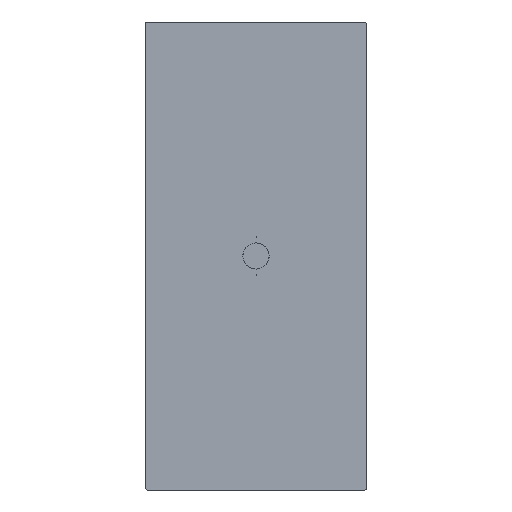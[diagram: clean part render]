
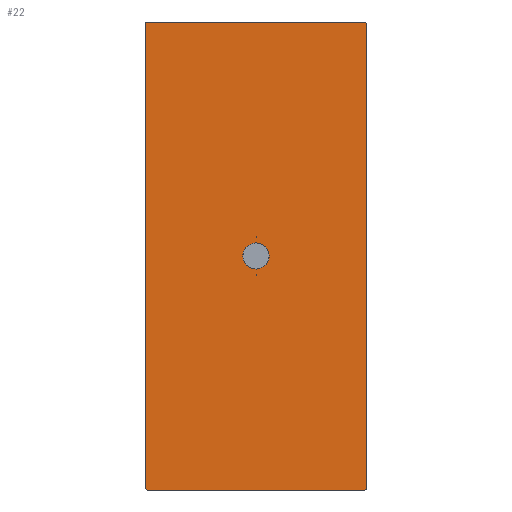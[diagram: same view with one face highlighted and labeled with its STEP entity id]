
A CAD part, front view. The second image highlights one B-rep face of the part: STEP entity #22.
In plain terms, the highlighted planar face has unit normal (0, -1, 0).
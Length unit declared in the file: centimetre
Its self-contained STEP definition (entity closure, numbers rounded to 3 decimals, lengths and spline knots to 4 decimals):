
#15=FACE_BOUND('',#105,.T.);
#22=ADVANCED_FACE('',(#63,#15),#631,.T.);
#63=FACE_OUTER_BOUND('',#104,.T.);
#104=EDGE_LOOP('',(#174,#175,#176,#177,#178,#179,#180,#181));
#105=EDGE_LOOP('',(#182,#183));
#174=ORIENTED_EDGE('',*,*,#373,.F.);
#175=ORIENTED_EDGE('',*,*,#338,.F.);
#176=ORIENTED_EDGE('',*,*,#381,.F.);
#177=ORIENTED_EDGE('',*,*,#337,.F.);
#178=ORIENTED_EDGE('',*,*,#385,.F.);
#179=ORIENTED_EDGE('',*,*,#340,.F.);
#180=ORIENTED_EDGE('',*,*,#377,.F.);
#181=ORIENTED_EDGE('',*,*,#339,.F.);
#182=ORIENTED_EDGE('',*,*,#333,.T.);
#183=ORIENTED_EDGE('',*,*,#332,.T.);
#332=EDGE_CURVE('',#540,#541,#460,.T.);
#333=EDGE_CURVE('',#541,#540,#461,.T.);
#337=EDGE_CURVE('',#549,#544,#433,.T.);
#338=EDGE_CURVE('',#555,#550,#434,.T.);
#339=EDGE_CURVE('',#559,#560,#435,.T.);
#340=EDGE_CURVE('',#567,#562,#436,.T.);
#373=EDGE_CURVE('',#550,#559,#487,.T.);
#377=EDGE_CURVE('',#560,#567,#489,.T.);
#381=EDGE_CURVE('',#544,#555,#491,.T.);
#385=EDGE_CURVE('',#562,#549,#493,.T.);
#433=B_SPLINE_CURVE_WITH_KNOTS('',1,(#2009,#2010),.UNSPECIFIED.,.F.,.F.,
(2,2),(0.,1.),.UNSPECIFIED.);
#434=B_SPLINE_CURVE_WITH_KNOTS('',1,(#2011,#2012),.UNSPECIFIED.,.F.,.F.,
(2,2),(0.,1.),.UNSPECIFIED.);
#435=B_SPLINE_CURVE_WITH_KNOTS('',1,(#2013,#2014),.UNSPECIFIED.,.F.,.F.,
(2,2),(0.,1.),.UNSPECIFIED.);
#436=B_SPLINE_CURVE_WITH_KNOTS('',1,(#2015,#2016),.UNSPECIFIED.,.F.,.F.,
(2,2),(0.,1.),.UNSPECIFIED.);
#460=(
BOUNDED_CURVE()
B_SPLINE_CURVE(2,(#1987,#1988,#1989,#1990,#1991),.UNSPECIFIED.,.F.,.F.)
B_SPLINE_CURVE_WITH_KNOTS((3,2,3),(-0.1492,-0.0746,
0.),.UNSPECIFIED.)
CURVE()
GEOMETRIC_REPRESENTATION_ITEM()
RATIONAL_B_SPLINE_CURVE((1.,0.707,1.,0.707,1.))
REPRESENTATION_ITEM('')
);
#461=(
BOUNDED_CURVE()
B_SPLINE_CURVE(2,(#1992,#1993,#1994,#1995,#1996),.UNSPECIFIED.,.F.,.F.)
B_SPLINE_CURVE_WITH_KNOTS((3,2,3),(-0.2985,-0.2238,
-0.1492),.UNSPECIFIED.)
CURVE()
GEOMETRIC_REPRESENTATION_ITEM()
RATIONAL_B_SPLINE_CURVE((1.,0.707,1.,0.707,1.))
REPRESENTATION_ITEM('')
);
#487=(
BOUNDED_CURVE()
B_SPLINE_CURVE(2,(#2470,#2471,#2472),.UNSPECIFIED.,.F.,.F.)
B_SPLINE_CURVE_WITH_KNOTS((3,3),(5.4983,7.0681),
 .UNSPECIFIED.)
CURVE()
GEOMETRIC_REPRESENTATION_ITEM()
RATIONAL_B_SPLINE_CURVE((1.,0.707,1.))
REPRESENTATION_ITEM('')
);
#489=(
BOUNDED_CURVE()
B_SPLINE_CURVE(2,(#2480,#2481,#2482),.UNSPECIFIED.,.F.,.F.)
B_SPLINE_CURVE_WITH_KNOTS((3,3),(5.4983,7.0681),
 .UNSPECIFIED.)
CURVE()
GEOMETRIC_REPRESENTATION_ITEM()
RATIONAL_B_SPLINE_CURVE((1.,0.707,1.))
REPRESENTATION_ITEM('')
);
#491=(
BOUNDED_CURVE()
B_SPLINE_CURVE(2,(#2490,#2491,#2492),.UNSPECIFIED.,.F.,.F.)
B_SPLINE_CURVE_WITH_KNOTS((3,3),(5.4983,7.0681),
 .UNSPECIFIED.)
CURVE()
GEOMETRIC_REPRESENTATION_ITEM()
RATIONAL_B_SPLINE_CURVE((1.,0.707,1.))
REPRESENTATION_ITEM('')
);
#493=(
BOUNDED_CURVE()
B_SPLINE_CURVE(2,(#2500,#2501,#2502),.UNSPECIFIED.,.F.,.F.)
B_SPLINE_CURVE_WITH_KNOTS((3,3),(5.4983,7.0681),
 .UNSPECIFIED.)
CURVE()
GEOMETRIC_REPRESENTATION_ITEM()
RATIONAL_B_SPLINE_CURVE((1.,0.707,1.))
REPRESENTATION_ITEM('')
);
#540=VERTEX_POINT('',#1914);
#541=VERTEX_POINT('',#1915);
#544=VERTEX_POINT('',#1918);
#549=VERTEX_POINT('',#1923);
#550=VERTEX_POINT('',#1924);
#555=VERTEX_POINT('',#1929);
#559=VERTEX_POINT('',#1933);
#560=VERTEX_POINT('',#1934);
#562=VERTEX_POINT('',#1936);
#567=VERTEX_POINT('',#1941);
#631=PLANE('',#657);
#657=AXIS2_PLACEMENT_3D('',#685,#666,$);
#666=DIRECTION('',(0.,-1.,0.));
#685=CARTESIAN_POINT('',(-0.41,0.,-0.86));
#1914=CARTESIAN_POINT('',(0.,0.,0.0475));
#1915=CARTESIAN_POINT('',(0.,0.,-0.0475));
#1918=CARTESIAN_POINT('',(0.4,0.,-0.845));
#1923=CARTESIAN_POINT('',(0.4,0.,0.845));
#1924=CARTESIAN_POINT('',(-0.395,0.,-0.85));
#1929=CARTESIAN_POINT('',(0.395,0.,-0.85));
#1933=CARTESIAN_POINT('',(-0.4,0.,-0.845));
#1934=CARTESIAN_POINT('',(-0.4,0.,0.845));
#1936=CARTESIAN_POINT('',(0.395,0.,0.85));
#1941=CARTESIAN_POINT('',(-0.395,0.,0.85));
#1987=CARTESIAN_POINT('',(0.,0.,0.0475));
#1988=CARTESIAN_POINT('',(0.0475,0.,0.0475));
#1989=CARTESIAN_POINT('',(0.0475,0.,0.));
#1990=CARTESIAN_POINT('',(0.0475,0.,-0.0475));
#1991=CARTESIAN_POINT('',(0.,0.,-0.0475));
#1992=CARTESIAN_POINT('',(0.,0.,-0.0475));
#1993=CARTESIAN_POINT('',(-0.0475,0.,-0.0475));
#1994=CARTESIAN_POINT('',(-0.0475,0.,0.));
#1995=CARTESIAN_POINT('',(-0.0475,0.,0.0475));
#1996=CARTESIAN_POINT('',(0.,0.,0.0475));
#2009=CARTESIAN_POINT('',(0.4,0.,0.845));
#2010=CARTESIAN_POINT('',(0.4,0.,-0.845));
#2011=CARTESIAN_POINT('',(0.395,0.,-0.85));
#2012=CARTESIAN_POINT('',(-0.395,0.,-0.85));
#2013=CARTESIAN_POINT('',(-0.4,0.,-0.845));
#2014=CARTESIAN_POINT('',(-0.4,0.,0.845));
#2015=CARTESIAN_POINT('',(-0.395,0.,0.85));
#2016=CARTESIAN_POINT('',(0.395,0.,0.85));
#2470=CARTESIAN_POINT('',(-0.395,0.,-0.85));
#2471=CARTESIAN_POINT('',(-0.4,0.0002,-0.85));
#2472=CARTESIAN_POINT('',(-0.4,0.,-0.845));
#2480=CARTESIAN_POINT('',(-0.4,0.,0.845));
#2481=CARTESIAN_POINT('',(-0.4,0.0002,0.85));
#2482=CARTESIAN_POINT('',(-0.395,0.,0.85));
#2490=CARTESIAN_POINT('',(0.4,0.,-0.845));
#2491=CARTESIAN_POINT('',(0.4,0.0002,-0.85));
#2492=CARTESIAN_POINT('',(0.395,0.,-0.85));
#2500=CARTESIAN_POINT('',(0.395,0.,0.85));
#2501=CARTESIAN_POINT('',(0.4,0.0002,0.85));
#2502=CARTESIAN_POINT('',(0.4,0.,0.845));
